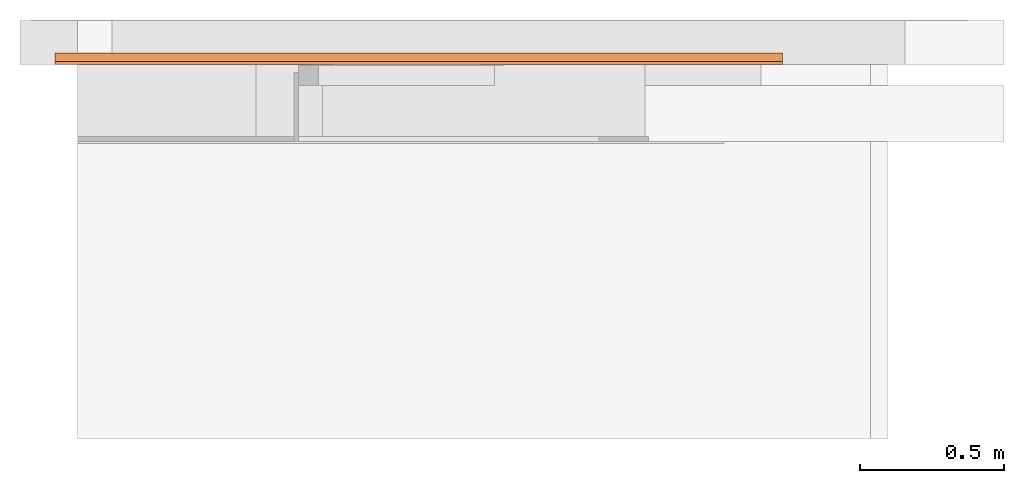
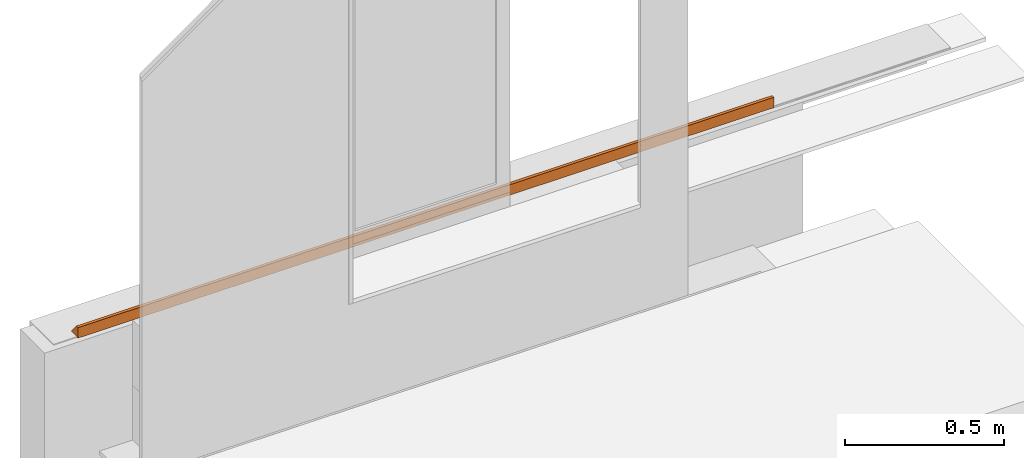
# One storey, part 4 of 4: 1 proxy.
"""IFC4 building model written with IfcOpenShell, lengths in centimetres."""

import ifcopenshell
import ifcopenshell.guid

model = None  # the IFC model being written
_history = None  # IfcOwnerHistory: only IFC2X3 demands one
_inside = {}  # id of a spatial element -> (the spatial element, [elements in it])
_under = {}  # id of a project, library or spatial element -> (it, [spatial elements below it])
_declared = {}  # id of a project -> (the project, [libraries it declares])
_typed = {}  # id of a type object -> (the type object, [elements of that type])
_made_of = {}  # id of a material, layer set ... -> (it, [elements and type objects made of it])


def new_model(schema):
    """Start an empty IFC model of exactly this schema.

    Asked for "IFC4X3", IfcOpenShell would pick the latest addendum, in which some entities
    have other attributes; the version numbers below select the first issue.
    IFC2X3 requires an IfcOwnerHistory on every rooted entity: one is made here for all.
    """
    global model, _history
    if schema == "IFC4X3":
        model = ifcopenshell.file(schema_version=(4, 3, 0, 0))
    else:
        model = ifcopenshell.file(schema=schema)
    _inside.clear()
    _under.clear()
    _declared.clear()
    _typed.clear()
    _made_of.clear()
    _history = None
    if model.schema == "IFC2X3":
        org = make("IfcOrganization", Name="unknown")
        user = make(
            "IfcPersonAndOrganization",
            ThePerson=make("IfcPerson", FamilyName="unknown"),
            TheOrganization=org,
        )
        app = make(
            "IfcApplication",
            ApplicationDeveloper=org,
            Version="unknown",
            ApplicationFullName="unknown",
            ApplicationIdentifier="unknown",
        )
        _history = make(
            "IfcOwnerHistory",
            OwningUser=user,
            OwningApplication=app,
            ChangeAction="ADDED",
            CreationDate=0,
        )
    return model


def make(cls, **values):
    """One entity of the class cls with the attributes given. An attribute that is None is left unset."""
    return model.create_entity(
        cls, **{name: value for name, value in values.items() if value is not None}
    )


def entity(cls, *values):
    """Any entity or typed value of the class cls, its attributes in the order of the schema. None: left unset."""
    e = model.create_entity(cls)
    for i, value in enumerate(values):
        if value is not None:
            e[i] = value
    return e


def rooted(cls, **values):
    """An entity with a GlobalId (a new one), such as an element, a storey or a relation."""
    return make(cls, GlobalId=ifcopenshell.guid.new(), OwnerHistory=_history, **values)


def si_unit(unit_type, name, prefix=None):
    """IfcSIUnit, for example si_unit("LENGTHUNIT", "METRE", prefix="MILLI")."""
    return make("IfcSIUnit", UnitType=unit_type, Prefix=prefix, Name=name)


def converted_unit(unit_type, name, factor, base, dimensions=None, offset=None):
    """IfcConversionBasedUnit, such as the inch: factor (a typed value) times the base unit."""
    return make(
        "IfcConversionBasedUnit"
        if offset is None
        else "IfcConversionBasedUnitWithOffset",
        ConversionOffset=offset,
        Dimensions=None
        if dimensions is None
        else entity("IfcDimensionalExponents", *dimensions),
        UnitType=unit_type,
        Name=name,
        ConversionFactor=make(
            "IfcMeasureWithUnit", ValueComponent=factor, UnitComponent=base
        ),
    )


def assignment(units):
    """IfcUnitAssignment: the units of a project."""
    return None if units is None else make("IfcUnitAssignment", Units=units)


def point(xyz):
    """IfcCartesianPoint."""
    return None if xyz is None else make("IfcCartesianPoint", Coordinates=xyz)


def direction(xyz):
    """IfcDirection."""
    return None if xyz is None else make("IfcDirection", DirectionRatios=xyz)


def frame(location, z_axis=None, x_axis=None):
    """IfcAxis2Placement3D, a coordinate frame: its origin and axes. An axis left out is left unset."""
    return make(
        "IfcAxis2Placement3D",
        Location=point(location),
        Axis=direction(z_axis),
        RefDirection=direction(x_axis),
    )


def origin():
    """The frame at (0, 0, 0) with its axes left unset."""
    return frame((0.0, 0.0, 0.0))


def place(relative_to, where):
    """IfcLocalPlacement: puts the frame where relative to a parent placement (None: the world)."""
    return make(
        "IfcLocalPlacement", PlacementRelTo=relative_to, RelativePlacement=where
    )


def context(
    kind, dimensions, precision=None, world=None, true_north=None, identifier=None
):
    """IfcGeometricRepresentationContext, for example the 3D "Model" context."""
    return make(
        "IfcGeometricRepresentationContext",
        ContextIdentifier=identifier,
        ContextType=kind,
        CoordinateSpaceDimension=dimensions,
        Precision=precision,
        WorldCoordinateSystem=world,
        TrueNorth=true_north,
    )


def subcontext(parent, identifier, kind, view, scale=None):
    """IfcGeometricRepresentationSubContext, for example "Body" below "Model"."""
    return make(
        "IfcGeometricRepresentationSubContext",
        ContextIdentifier=identifier,
        ContextType=kind,
        ParentContext=parent,
        TargetScale=scale,
        TargetView=view,
    )


def project(units=None, contexts=None):
    """IfcProject with its units and contexts."""
    return rooted(
        "IfcProject",
        Name="project",
        RepresentationContexts=contexts,
        UnitsInContext=assignment(units),
    )


def spatial(cls, under=None, at=None, **own):
    """A site, building, storey or space (cls), placed at a placement, below another one or the project."""
    s = rooted(cls, ObjectPlacement=at, **own)
    if under is not None:
        _under.setdefault(under.id(), (under, []))[1].append(s)
    return s


def point_list(points):
    """IfcCartesianPointList2D or 3D."""
    cls = (
        "IfcCartesianPointList2D" if len(points[0]) == 2 else "IfcCartesianPointList3D"
    )
    return make(cls, CoordList=points)


def indexed_curve(points, segments=None, self_intersect=None):
    """IfcIndexedPolyCurve: lines and arcs through numbered points (the first is 1)."""
    return make(
        "IfcIndexedPolyCurve",
        Points=point_list(points),
        Segments=segments,
        SelfIntersect=self_intersect,
    )


def outline(outer, holes=None, kind="AREA"):
    """IfcArbitraryClosedProfileDef: a profile drawn as a closed curve; with holes, ...WithVoids."""
    if holes is None:
        return make("IfcArbitraryClosedProfileDef", ProfileType=kind, OuterCurve=outer)
    return make(
        "IfcArbitraryProfileDefWithVoids",
        ProfileType=kind,
        OuterCurve=outer,
        InnerCurves=holes,
    )


def extrude(swept, where, along, depth):
    """IfcExtrudedAreaSolid: the profile swept, set in the frame where, extruded along a direction by depth."""
    return make(
        "IfcExtrudedAreaSolid",
        SweptArea=swept,
        Position=where,
        ExtrudedDirection=direction(along),
        Depth=depth,
    )


def shape(context_of_items, identifier, shape_type, items):
    """IfcShapeRepresentation: the items that make up one representation, for example the "Body"."""
    return make(
        "IfcShapeRepresentation",
        ContextOfItems=context_of_items,
        RepresentationIdentifier=identifier,
        RepresentationType=shape_type,
        Items=items,
    )


def source(mapping_origin, context_of_items, identifier, shape_type, items):
    """IfcRepresentationMap: a shape defined once, which mapped items show again and again."""
    return make(
        "IfcRepresentationMap",
        MappingOrigin=mapping_origin,
        MappedRepresentation=shape(context_of_items, identifier, shape_type, items),
    )


def transform(
    local_origin,
    x_axis=None,
    y_axis=None,
    z_axis=None,
    scale=None,
    scale2=None,
    scale3=None,
    uniform=True,
):
    """IfcCartesianTransformationOperator3D, or its non-uniform kind. x_axis, y_axis, z_axis: its Axis1, 2, 3."""
    if uniform:
        return make(
            "IfcCartesianTransformationOperator3D",
            Axis1=direction(x_axis),
            Axis2=direction(y_axis),
            LocalOrigin=point(local_origin),
            Scale=scale,
            Axis3=direction(z_axis),
        )
    return make(
        "IfcCartesianTransformationOperator3DnonUniform",
        Axis1=direction(x_axis),
        Axis2=direction(y_axis),
        LocalOrigin=point(local_origin),
        Scale=scale,
        Axis3=direction(z_axis),
        Scale2=scale2,
        Scale3=scale3,
    )


def mapped(mapping_source, mapping_target):
    """IfcMappedItem: shows the shape of a source again, moved by a transform."""
    return make(
        "IfcMappedItem", MappingSource=mapping_source, MappingTarget=mapping_target
    )


def material(Name=None, Category=None):
    """IfcMaterial."""
    return make("IfcMaterial", Name=Name, Category=Category)


def made_of(thing, what):
    """Note that an element or type object is made of a material, layer set ...; save() writes the relation."""
    if what is not None:
        _made_of.setdefault(what.id(), (what, []))[1].append(thing)
    return thing


def type_object(cls, material=None, **own):
    """A type object (cls), such as IfcWallType, which elements share."""
    return made_of(rooted(cls, **own), material)


def type_shapes(of_type, sources):
    """Give a type object the sources (RepresentationMaps) that its elements show as mapped items."""
    of_type.RepresentationMaps = sources


def element(
    cls,
    number,
    at=None,
    inside=None,
    cuts=None,
    type_object=None,
    material=None,
    context=None,
    identifier="Body",
    shape_type=None,
    held_by="IfcProductDefinitionShape",
    body=None,
    shapes=None,
    **own,
):
    """One element of the class cls, such as IfcWall. Its Tag is "e" and its number.

    at: its placement. inside: the storey or other place that contains it. cuts: it is an
    opening in that element (IfcRelVoidsElement). A single representation is given by context,
    identifier, shape_type and body (its items); several are given by shapes. held_by: the class
    of the entity that holds the representations. save() writes the other relations.
    """
    e = rooted(cls, Tag="e%d" % number, ObjectPlacement=at, **own)
    if body is not None:
        shapes = [shape(context, identifier, shape_type, body)]
    if shapes is not None:
        e.Representation = make(held_by, Representations=shapes)
    if inside is not None:
        _inside.setdefault(inside.id(), (inside, []))[1].append(e)
    if cuts is not None:
        rooted(
            "IfcRelVoidsElement", RelatingBuildingElement=cuts, RelatedOpeningElement=e
        )
    if type_object is not None:
        _typed.setdefault(type_object.id(), (type_object, []))[1].append(e)
    return made_of(e, material)


def aggregate(whole, parts):
    """IfcRelAggregates: a whole, such as a stair, and the parts it consists of."""
    return rooted("IfcRelAggregates", RelatingObject=whole, RelatedObjects=parts)


def save(model, path):
    """Write the relations noted so far, then the file.

    IfcRelAggregates (storeys below a building ...), IfcRelContainedInSpatialStructure (elements
    in a storey), IfcRelDefinesByType, IfcRelAssociatesMaterial and IfcRelDeclares: one each for
    every whole, place, type object, material and project.
    """
    for whole, parts in _under.values():
        aggregate(whole, parts)
    for where, things in _inside.values():
        rooted(
            "IfcRelContainedInSpatialStructure",
            RelatedElements=things,
            RelatingStructure=where,
        )
    for kind, things in _typed.values():
        rooted("IfcRelDefinesByType", RelatedObjects=things, RelatingType=kind)
    for what, things in _made_of.values():
        rooted("IfcRelAssociatesMaterial", RelatedObjects=things, RelatingMaterial=what)
    for by, libraries in _declared.values():
        rooted("IfcRelDeclares", RelatingContext=by, RelatedDefinitions=libraries)
    model.write(path)


model = new_model("IFC4")

# Units and contexts
model_context = context("Model", 3, precision=0.001, world=origin(), true_north=direction((0.0, 1.0)))
body_context = subcontext(model_context, "Body", "Model", "MODEL_VIEW")
ifc_project = project(units=[si_unit("LENGTHUNIT", "METRE", prefix="CENTI"), si_unit("AREAUNIT", "SQUARE_METRE"), si_unit("VOLUMEUNIT", "CUBIC_METRE"), converted_unit("PLANEANGLEUNIT", "DEGREE", entity("IfcPlaneAngleMeasure", 0.017453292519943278), si_unit("PLANEANGLEUNIT", "RADIAN"), dimensions=[0, 0, 0, 0, 0, 0, 0])], contexts=[model_context])

# Site, building, storey
site_placement = place(None, origin())
site = spatial("IfcSite", under=ifc_project, at=site_placement, Name="Default", CompositionType="ELEMENT")
building_placement = place(site_placement, origin())
building = spatial("IfcBuilding", under=site, at=building_placement, CompositionType="ELEMENT")
storey_placement = place(building_placement, frame((0.0, 0.0, -12.0)))
storey = spatial("IfcBuildingStorey", under=building, at=storey_placement, Name="L00__ABOVE Slab", CompositionType="ELEMENT", Elevation=-12.000000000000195)

# Proxy
ifc_material = material(Name="<Unnamed>")
building_element_proxy_type = type_object("IfcBuildingElementProxyType", Name="Generic Models : Generic Models 5 : Generic Models 5", PredefinedType="NOTDEFINED", material=ifc_material)
shared_shape = source(origin(), body_context, "Body", "SweptSolid", [
    extrude(outline(indexed_curve([(-2.8226221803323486, -1.684763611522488), (1.9383882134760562, -1.6847636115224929), (2.65154052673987, -0.8040938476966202), (-0.45704331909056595, 1.713187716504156), (-0.7717035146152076, 1.3246147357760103), (-0.5385597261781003, 1.1358186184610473), (-2.8226221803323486, -1.684763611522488)], self_intersect=False)), frame((2750.6761091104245, 442.3272225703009, 45.433333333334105), z_axis=(1.0, 0.0, 0.0), x_axis=(0.0, -0.6293203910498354, 0.7771459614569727)), (0.0, 0.0, 1.0), 252.42284347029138),
])
type_shapes(building_element_proxy_type, [shared_shape])
proxy_placement = place(storey_placement, frame((0.0, 0.0, 12.0)))
element("IfcBuildingElementProxy", 1, at=proxy_placement, inside=storey, type_object=building_element_proxy_type, material=ifc_material, Name="Generic Models : Generic Models 5 : Generic Models 5", PredefinedType="NOTDEFINED", context=body_context, shape_type="MappedRepresentation", body=[
    mapped(shared_shape, transform((0.0, 0.0, 0.0), scale=1.0)),
])

save(model, "model.ifc")
